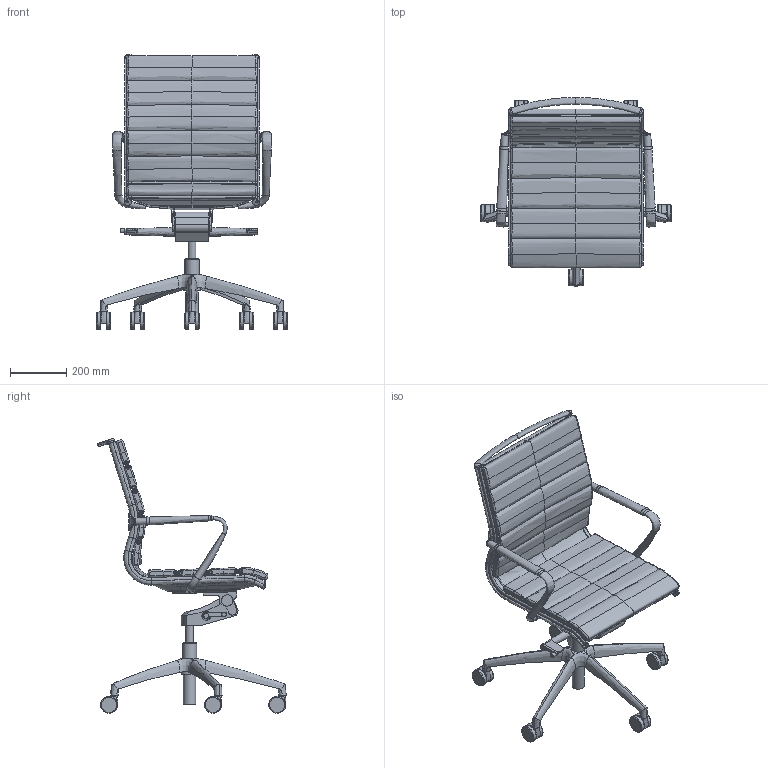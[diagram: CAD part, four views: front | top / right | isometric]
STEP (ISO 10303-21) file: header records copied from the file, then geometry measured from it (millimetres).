
FILE_DESCRIPTION(/* description */ (''),/* implementation_level */ '2;1');
FILE_NAME(/* name */ 'PLUTO6~2',/* time_stamp */ '2018-04-10T14:51:21+02:00',/* author */ (''),/* organization */ (''),/* preprocessor_version */ 'ST-DEVELOPER v16.5',/* originating_system */ '',/* authorisation */ '');
FILE_SCHEMA (('AUTOMOTIVE_DESIGN'));
Length unit declared in the file: millimetre
Products named in the file (1): Document
Bounding box: 677.7 x 669.48 x 974.8 mm (x, y, z)
Volume: 17853642 mm3; surface area: 2923195.7 mm2
Topology: 23 solids, 59 shells, 803 faces, 2036 edges, 1289 vertices
Faces by surface type: bspline 673, plane 130
Entity records: 75876 total; most frequent: CARTESIAN_POINT 63672, ORIENTED_EDGE 3827, EDGE_CURVE 2013, B_SPLINE_CURVE_WITH_KNOTS 1440, VERTEX_POINT 1283, EDGE_LOOP 807, ADVANCED_FACE 803, FACE_OUTER_BOUND 803
